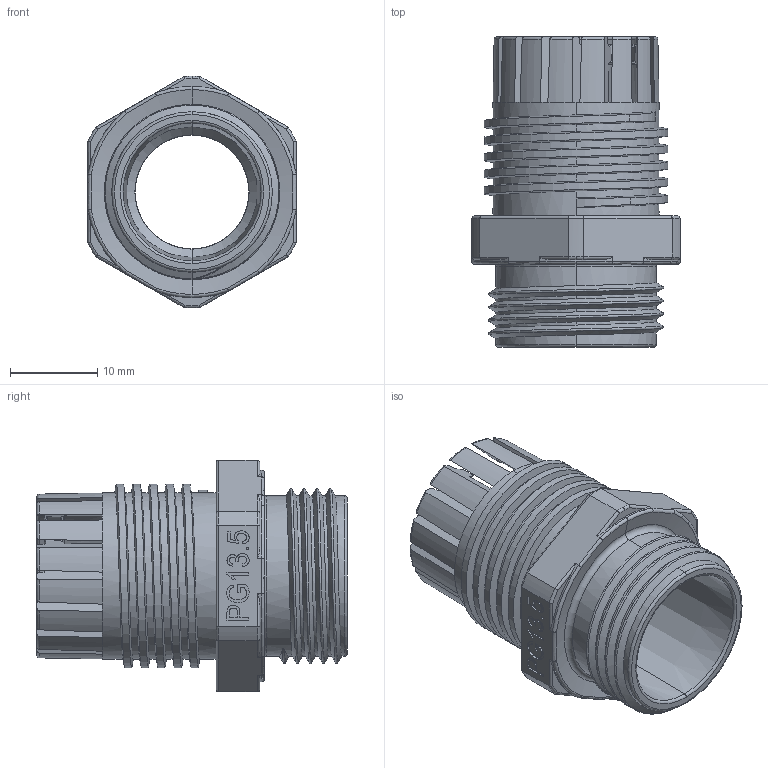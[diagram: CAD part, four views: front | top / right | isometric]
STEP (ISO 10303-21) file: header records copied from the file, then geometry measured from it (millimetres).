
FILE_DESCRIPTION (( 'STEP AP214' ), '1' );
FILE_NAME ('plc-pg-13.5-00.00.001 昢膼瘔 (PG13.5) #base (PG13.5)#.STEP', '2024-04-24T08:13:52', ( '' ), ( '' ), 'SwSTEP 2.0', 'SolidWorks 2021', '' );
FILE_SCHEMA (( 'AUTOMOTIVE_DESIGN' ));
Length unit declared in the file: millimetre
Products named in the file (1): plc-pg-13.5-00.00.001 昢膼瘔 (PG13.5) #base (PG13.5)#
Bounding box: 23.8 x 35.5 x 26.5 mm (x, y, z)
Volume: 4456.7 mm3; surface area: 5700.7 mm2
Topology: 1 solids, 1 shells, 443 faces, 1204 edges, 775 vertices
Faces by surface type: plane 173, cone 79, cylinder 73, torus 60, bspline 58
Entity records: 19513 total; most frequent: CARTESIAN_POINT 8370, ORIENTED_EDGE 2408, DIRECTION 1765, EDGE_CURVE 1204, VERTEX_POINT 775, AXIS2_PLACEMENT_3D 662, EDGE_LOOP 457, ADVANCED_FACE 443
